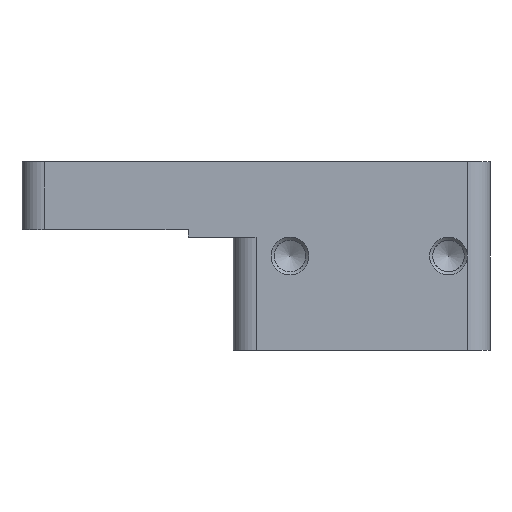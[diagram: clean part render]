
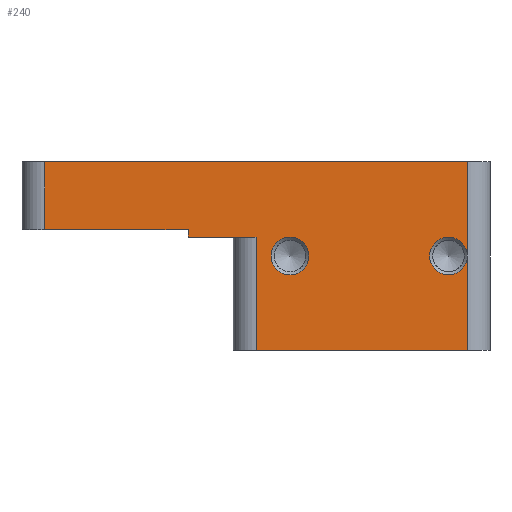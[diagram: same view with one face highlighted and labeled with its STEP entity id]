
A CAD part, left-side view. The second image highlights one B-rep face of the part: STEP entity #240.
In plain terms, the highlighted planar face has unit normal (-1, 0, 0).
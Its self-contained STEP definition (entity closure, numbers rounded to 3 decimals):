
#240=ADVANCED_FACE('',(#554,#555),#330,.T.);
#330=PLANE('',#1778);
#368=LINE('',#2550,#456);
#388=LINE('',#2641,#476);
#389=LINE('',#2644,#477);
#390=LINE('',#2646,#478);
#391=LINE('',#2648,#479);
#392=LINE('',#2650,#480);
#393=LINE('',#2653,#481);
#394=LINE('',#2654,#482);
#395=LINE('',#2656,#483);
#456=VECTOR('',#1940,1.);
#476=VECTOR('',#1988,1.);
#477=VECTOR('',#1989,1.);
#478=VECTOR('',#1990,1.);
#479=VECTOR('',#1991,1.);
#480=VECTOR('',#1992,1.);
#481=VECTOR('',#1995,1.);
#482=VECTOR('',#1996,1.);
#483=VECTOR('',#1997,1.);
#554=FACE_BOUND('',#640,.T.);
#555=FACE_BOUND('',#641,.T.);
#640=EDGE_LOOP('',(#839,#840,#841,#842,#843,#844,#845,#846,#847,#848));
#641=EDGE_LOOP('',(#849));
#839=ORIENTED_EDGE('',*,*,#1420,.F.);
#840=ORIENTED_EDGE('',*,*,#1421,.F.);
#841=ORIENTED_EDGE('',*,*,#1422,.T.);
#842=ORIENTED_EDGE('',*,*,#1423,.T.);
#843=ORIENTED_EDGE('',*,*,#1424,.T.);
#844=ORIENTED_EDGE('',*,*,#1425,.T.);
#845=ORIENTED_EDGE('',*,*,#1426,.T.);
#846=ORIENTED_EDGE('',*,*,#1388,.T.);
#847=ORIENTED_EDGE('',*,*,#1427,.T.);
#848=ORIENTED_EDGE('',*,*,#1428,.F.);
#849=ORIENTED_EDGE('',*,*,#1429,.T.);
#1233=VERTEX_POINT('',#2549);
#1234=VERTEX_POINT('',#2551);
#1261=VERTEX_POINT('',#2642);
#1262=VERTEX_POINT('',#2643);
#1263=VERTEX_POINT('',#2645);
#1264=VERTEX_POINT('',#2647);
#1265=VERTEX_POINT('',#2649);
#1266=VERTEX_POINT('',#2651);
#1267=VERTEX_POINT('',#2655);
#1268=VERTEX_POINT('',#2658);
#1388=EDGE_CURVE('',#1234,#1233,#368,.T.);
#1420=EDGE_CURVE('',#1261,#1262,#388,.T.);
#1421=EDGE_CURVE('',#1263,#1261,#389,.T.);
#1422=EDGE_CURVE('',#1263,#1264,#390,.T.);
#1423=EDGE_CURVE('',#1264,#1265,#391,.T.);
#1424=EDGE_CURVE('',#1265,#1266,#392,.T.);
#1425=EDGE_CURVE('',#1266,#1266,#1697,.T.);
#1426=EDGE_CURVE('',#1266,#1234,#393,.T.);
#1427=EDGE_CURVE('',#1233,#1267,#394,.T.);
#1428=EDGE_CURVE('',#1262,#1267,#395,.T.);
#1429=EDGE_CURVE('',#1268,#1268,#1698,.T.);
#1697=CIRCLE('',#1776,2.5);
#1698=CIRCLE('',#1777,2.5);
#1776=AXIS2_PLACEMENT_3D('',#2652,#1993,#1994);
#1777=AXIS2_PLACEMENT_3D('',#2657,#1998,#1999);
#1778=AXIS2_PLACEMENT_3D('',#2659,#2000,#2001);
#1940=DIRECTION('',(0.,1.,0.));
#1988=DIRECTION('',(0.,0.,1.));
#1989=DIRECTION('',(0.,1.,0.));
#1990=DIRECTION('',(0.,0.,-1.));
#1991=DIRECTION('',(0.,-1.,0.));
#1992=DIRECTION('',(0.,0.,1.));
#1993=DIRECTION('',(1.,0.,0.));
#1994=DIRECTION('',(0.,0.,1.));
#1995=DIRECTION('',(0.,0.,1.));
#1996=DIRECTION('',(0.,0.,-1.));
#1997=DIRECTION('',(0.,1.,0.));
#1998=DIRECTION('',(1.,0.,0.));
#1999=DIRECTION('',(0.,0.,1.));
#2000=DIRECTION('',(-1.,0.,0.));
#2001=DIRECTION('',(0.,0.,1.));
#2549=CARTESIAN_POINT('',(0.,59.,25.));
#2550=CARTESIAN_POINT('',(0.,17.,25.));
#2551=CARTESIAN_POINT('',(0.,3.,25.));
#2641=CARTESIAN_POINT('',(0.,40.,0.));
#2642=CARTESIAN_POINT('',(0.,40.,15.));
#2643=CARTESIAN_POINT('',(0.,40.,16.));
#2644=CARTESIAN_POINT('',(0.,34.,15.));
#2645=CARTESIAN_POINT('',(0.,31.,15.));
#2646=CARTESIAN_POINT('',(0.,31.,0.));
#2647=CARTESIAN_POINT('',(0.,31.,0.));
#2648=CARTESIAN_POINT('',(0.,17.,0.));
#2649=CARTESIAN_POINT('',(0.,3.,0.));
#2650=CARTESIAN_POINT('',(0.,3.,0.));
#2651=CARTESIAN_POINT('',(0.,3.,12.5));
#2652=CARTESIAN_POINT('',(0.,5.5,12.5));
#2653=CARTESIAN_POINT('',(0.,3.,0.));
#2654=CARTESIAN_POINT('',(0.,59.,0.));
#2655=CARTESIAN_POINT('',(0.,59.,16.));
#2656=CARTESIAN_POINT('',(0.,17.,16.));
#2657=CARTESIAN_POINT('',(0.,26.5,12.5));
#2658=CARTESIAN_POINT('',(0.,26.5,15.));
#2659=CARTESIAN_POINT('',(0.,17.,0.));
